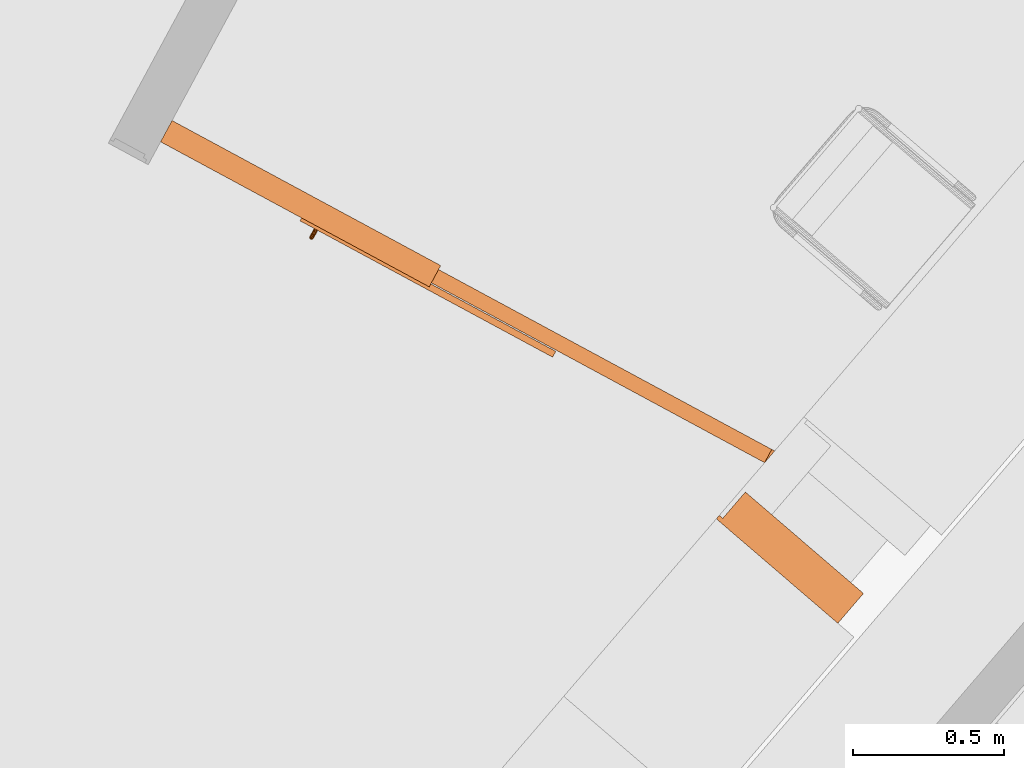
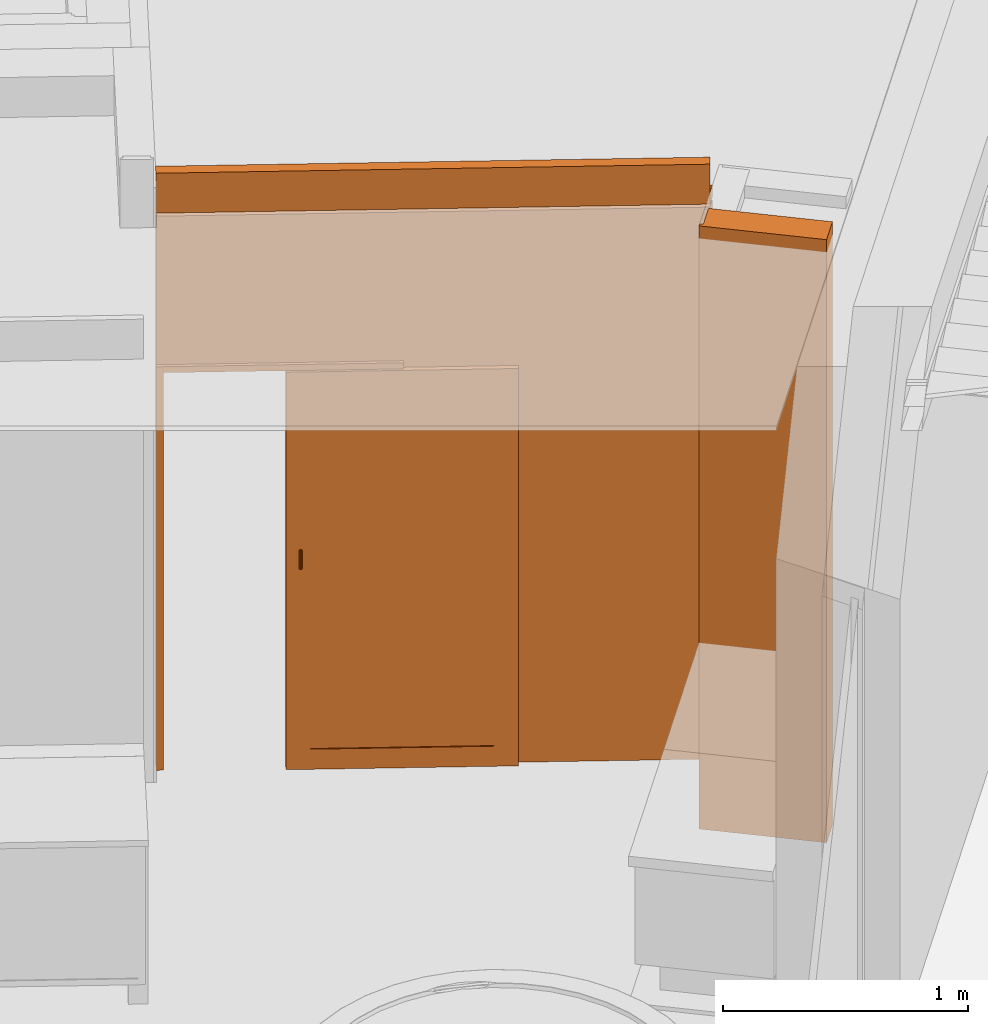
# One storey, part 46 of 48: 3 proxies, 1 opening.
"""IFC2X3 building model written with IfcOpenShell, lengths in metres."""

from ifc_helpers import new_model, entity, si_unit, converted_unit, derived_unit, money_unit, direction, frame, origin_with_axes, place, context, subcontext, project, spatial, open_shell, faceted_brep, surface_model, material, material_list, type_object, element, fill, save


model = new_model("IFC2X3")

# Units and contexts
model_context = context("Model", 3, precision=1e-05, world=origin_with_axes(), true_north=direction((0.0, 1.0)))
body_context = subcontext(model_context, "Body", "Model", "MODEL_VIEW")
ifc_project = project(units=[si_unit("LENGTHUNIT", "METRE"), si_unit("AREAUNIT", "SQUARE_METRE"), si_unit("VOLUMEUNIT", "CUBIC_METRE"), converted_unit("PLANEANGLEUNIT", "DEGREE", entity("IfcPlaneAngleMeasure", 0.0174532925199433), si_unit("PLANEANGLEUNIT", "RADIAN"), dimensions=[0, 0, 0, 0, 0, 0, 0]), money_unit("EUR"), converted_unit("TIMEUNIT", "Year", entity("IfcTimeMeasure", 31556926.0), si_unit("TIMEUNIT", "SECOND"), dimensions=[0, 0, 1, 0, 0, 0, 0]), si_unit("MASSUNIT", "GRAM", prefix="KILO"), si_unit("THERMODYNAMICTEMPERATUREUNIT", "DEGREE_CELSIUS"), si_unit("LUMINOUSINTENSITYUNIT", "LUMEN"), si_unit("ENERGYUNIT", "JOULE", prefix="MEGA"), derived_unit("THERMALCONDUCTANCEUNIT", [(si_unit("POWERUNIT", "WATT"), 1), (si_unit("LENGTHUNIT", "METRE"), -1), (si_unit("THERMODYNAMICTEMPERATUREUNIT", "KELVIN"), -1)]), derived_unit("SPECIFICHEATCAPACITYUNIT", [(si_unit("ENERGYUNIT", "JOULE"), 1), (si_unit("MASSUNIT", "GRAM", prefix="KILO"), -1), (si_unit("THERMODYNAMICTEMPERATUREUNIT", "KELVIN"), -1)]), derived_unit("MASSDENSITYUNIT", [(si_unit("MASSUNIT", "GRAM", prefix="KILO"), 1), (si_unit("VOLUMEUNIT", "CUBIC_METRE"), -1)])], contexts=[model_context])

# Site, building, storey
site_placement = place(None, frame((-3.949935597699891, 1.740105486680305, 0.0), z_axis=(0.0, 0.0, 1.0), x_axis=(0.8799804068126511, -0.475009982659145, 0.0)))
site = spatial("IfcSite", under=ifc_project, at=site_placement, Name="Gelände", CompositionType="ELEMENT")
building_placement = place(site_placement, origin_with_axes())
building = spatial("IfcBuilding", under=site, at=building_placement, Name="Gebäude", CompositionType="ELEMENT")
storey_placement = place(building_placement, frame((0.0, 0.0, 4.55), z_axis=(0.0, 0.0, 1.0), x_axis=(1.0, 0.0, 0.0)))
storey = spatial("IfcBuildingStorey", under=building, at=storey_placement, Name="Staffelgeschoss", CompositionType="ELEMENT", Elevation=4.55)

# Proxy
ifc_material_1 = material(Name="Verputz, Gips")
ifc_material_2 = material(Name="MW Kalksandstein")
ifc_material_list = material_list([ifc_material_1, ifc_material_2])
building_element_proxy_type_1 = type_object("IfcBuildingElementProxyType", Name="WI | KS 11,5+1-seitig Putz 1,5 | 13cm 130", PredefinedType="NOTDEFINED")
proxy_1_placement = place(storey_placement, frame((26.47090517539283, 5.30073583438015, -0.1799999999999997), z_axis=(0.0, 0.0, 1.0), x_axis=(-0.9769696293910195, 0.2133784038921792, 0.0)))
element("IfcBuildingElementProxy", 1, at=proxy_1_placement, inside=storey, type_object=building_element_proxy_type_1, material=ifc_material_list, Name="I-Wand010", context=body_context, shape_type="Brep", body=[
    faceted_brep([(0.5299999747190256, 0.0, 3.005000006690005), (0.0, 0.0, 3.005000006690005), (0.0, -0.01500000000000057, 3.005000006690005), (0.5299999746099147, -0.01500000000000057, 3.005000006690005), (0.5299999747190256, 0.0, 0.0), (0.0, 0.0, 0.0), (0.0, -0.01500000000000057, 0.0), (0.5299999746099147, -0.01500000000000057, 0.0)], [[[0, 1, 2, 3]], [[4, 5, 1, 0]], [[2, 1, 5, 6]], [[3, 2, 6, 7]], [[3, 7, 4, 0]], [[7, 6, 5, 4]]]),
    faceted_brep([(0.5149999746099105, -0.01500000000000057, 3.005000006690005), (0.0, -0.01500000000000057, 3.005000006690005), (0.0, -0.1300000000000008, 3.005000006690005), (0.5149999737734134, -0.129999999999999, 3.005000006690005), (0.5149999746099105, -0.01500000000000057, 0.0), (0.0, -0.01500000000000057, 0.0), (0.0, -0.1300000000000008, 0.0), (0.5149999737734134, -0.1300000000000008, 0.0)], [[[0, 1, 2, 3]], [[4, 5, 1, 0]], [[2, 1, 5, 6]], [[3, 2, 6, 7]], [[3, 7, 4, 0]], [[7, 6, 5, 4]]]),
])

# Proxies, opening
ifc_material_3 = material(Name="ALLGEMEIN - BAUTEIL")
building_element_proxy_type_2 = type_object("IfcBuildingElementProxyType", Name="ALLGEMEIN - BAUTEIL 50", PredefinedType="NOTDEFINED")
proxy_2_placement = place(storey_placement, frame((26.00538265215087, 5.653154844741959, -0.2999999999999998), z_axis=(0.0, 0.0, 1.0), x_axis=(-0.9999999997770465, -2.111651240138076e-05, 0.0)))
proxy_2 = element("IfcBuildingElementProxy", 2, at=proxy_2_placement, inside=storey, type_object=building_element_proxy_type_2, material=ifc_material_3, Name="I-Wand039", context=body_context, shape_type="Brep", body=[
    faceted_brep([(1.252847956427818, -0.04999999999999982, 2.31), (2.262847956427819, -0.05000000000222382, 2.31), (2.262848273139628, -0.05000000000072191, 3.05), (-0.01092152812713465, -0.04999999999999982, 3.05), (-0.01092152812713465, -0.04999999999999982, 0.2999999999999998), (1.252847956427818, -0.0500000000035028, 0.2999999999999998), (1.252847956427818, 0.0, 2.31), (2.262847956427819, 0.0, 2.31), (2.262849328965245, 0.0, 3.05), (0.0, 0.0, 3.05), (0.0, 0.0, 0.2999999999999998), (1.252847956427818, 0.0, 0.2999999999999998)], [[[0, 1, 2, 3, 4, 5]], [[1, 0, 6, 7]], [[1, 7, 8, 2]], [[9, 3, 2, 8]], [[10, 4, 3, 9]], [[11, 5, 4, 10]], [[0, 5, 11, 6]], [[6, 11, 10, 9, 8, 7]]]),
    faceted_brep([(2.262848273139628, -0.05000000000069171, 3.065), (2.262848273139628, -0.05000000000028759, 3.263999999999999), (0.0, -0.04999999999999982, 3.263999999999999), (0.0, -0.04999999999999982, 3.125000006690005), (-0.01092152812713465, -0.04999999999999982, 3.125000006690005), (-0.01092152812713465, -0.04999999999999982, 3.065), (2.262849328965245, 0.0, 3.065), (2.262849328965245, 0.0, 3.263999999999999), (0.0, 0.0, 3.263999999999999), (0.0, 0.0, 3.125000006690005), (0.0, 0.0, 3.065)], [[[0, 1, 2, 3, 4, 5]], [[6, 7, 1, 0]], [[7, 8, 2, 1]], [[3, 2, 8, 9]], [[3, 9, 4]], [[9, 10, 5, 4]], [[6, 0, 5, 10]], [[9, 8, 7, 6, 10]]]),
])
opening_placement = place(proxy_2_placement, frame((1.757847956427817, 0.0, 0.2999999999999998), z_axis=(0.0, 0.0, 1.0), x_axis=(1.0, 0.0, 0.0)))
opening = element("IfcOpeningElement", 3, at=opening_placement, cuts=proxy_2, Name="Tür-017", context=body_context, shape_type="Brep", body=[
    faceted_brep([(-0.504999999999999, 0.001047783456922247, 1.98), (-0.504999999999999, 0.0, 1.98), (-0.504999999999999, 0.0, 0.0), (-0.5049999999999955, -0.05104778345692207, 0.0), (-0.5049999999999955, -0.05104778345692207, 2.01), (-0.504999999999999, 0.001047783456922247, 2.01), (-0.5049999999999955, 0.03000000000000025, 1.98), (-1.514999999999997, 0.03000000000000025, 1.98), (-1.514999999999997, 0.0, 1.98), (-1.514999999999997, 0.0, 0.0), (-0.504999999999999, 0.001047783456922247, 0.0), (0.5050000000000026, 0.001047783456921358, 0.0), (0.5050000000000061, -0.05104778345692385, 0.0), (0.5050000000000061, -0.05104778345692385, 2.01), (0.5050000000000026, 0.001047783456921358, 2.01), (-0.5049999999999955, 0.03000000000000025, 0.0), (-1.514999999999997, 0.03000000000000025, 0.0)], [[[0, 1, 2, 3, 4, 5]], [[1, 0, 6, 7, 8]], [[2, 1, 8, 9]], [[2, 10, 11, 12, 3]], [[3, 12, 13, 4]], [[4, 13, 14, 5]], [[10, 0, 5, 14, 11]], [[0, 10, 15, 6]], [[7, 6, 15, 16]], [[8, 7, 16, 9]], [[10, 2, 9, 16, 15]], [[13, 12, 11, 14]]]),
])
building_element_proxy_type_3 = type_object("IfcBuildingElementProxyType", Name="Schiebetür 02 1 22", PredefinedType="NOTDEFINED")
proxy_3_placement = place(opening_placement, frame((0.5050000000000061, 0.0, 0.0), z_axis=(0.0, 0.0, 1.0), x_axis=(-1.0, 0.0, 0.0)))
proxy_3 = element("IfcBuildingElementProxy", 4, at=proxy_3_placement, inside=storey, type_object=building_element_proxy_type_3, Name="Tür-017", context=body_context, shape_type="SurfaceModel", body=[
    faceted_brep([(1.010000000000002, 0.0649999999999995, 0.0), (1.010000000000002, 0.04999999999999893, 0.0), (0.980000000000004, 0.04999999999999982, 0.0), (0.9800000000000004, 0.0649999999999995, 0.0), (1.010000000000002, 0.0649999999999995, 2.01), (1.010000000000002, 0.04999999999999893, 2.01), (0.0, 0.05000000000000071, 2.01), (0.0, 0.05000000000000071, 0.0), (0.03000000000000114, 0.05000000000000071, 0.0), (0.03000000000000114, 0.05000000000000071, 1.98), (0.980000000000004, 0.04999999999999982, 1.98), (0.9800000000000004, 0.0649999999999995, 1.98), (0.03000000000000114, 0.0649999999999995, 1.98), (0.03000000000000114, 0.0649999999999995, 0.0), (0.0, 0.06500000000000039, 0.0), (0.0, 0.06500000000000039, 2.01)], [[[0, 1, 2, 3]], [[4, 5, 1, 0]], [[1, 5, 6, 7, 8, 9, 10, 2]], [[3, 2, 10, 11]], [[0, 3, 11, 12, 13, 14, 15, 4]], [[15, 6, 5, 4]], [[14, 7, 6, 15]], [[13, 8, 7, 14]], [[12, 9, 8, 13]], [[11, 10, 9, 12]]]),
    faceted_brep([(1.010000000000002, 0.04999999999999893, 0.0), (1.010000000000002, 0.0, 0.0), (0.9799999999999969, 0.0, 0.0), (0.980000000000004, 0.04999999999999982, 0.0), (1.010000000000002, 0.04999999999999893, 2.01), (1.010000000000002, 0.0, 2.01), (0.0, 0.0, 2.01), (0.0, 0.0, 0.0), (0.03000000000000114, 0.0, 0.0), (0.03000000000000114, 0.0, 1.98), (0.9799999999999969, 0.0, 1.98), (0.980000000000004, 0.04999999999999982, 1.98), (0.03000000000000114, 0.05000000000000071, 1.98), (0.03000000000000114, 0.05000000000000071, 0.0), (0.0, 0.05000000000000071, 0.0), (0.0, 0.05000000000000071, 2.01)], [[[0, 1, 2, 3]], [[4, 5, 1, 0]], [[1, 5, 6, 7, 8, 9, 10, 2]], [[3, 2, 10, 11]], [[0, 3, 11, 12, 13, 14, 15, 4]], [[15, 6, 5, 4]], [[14, 7, 6, 15]], [[13, 8, 7, 14]], [[12, 9, 8, 13]], [[11, 10, 9, 12]]]),
    faceted_brep([(1.010000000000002, 0.0, 0.0), (1.010000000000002, -0.01500000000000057, 0.0), (0.9800000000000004, -0.01500000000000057, 0.0), (0.9799999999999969, 0.0, 0.0), (1.010000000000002, 0.0, 2.01), (1.010000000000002, -0.01500000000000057, 2.01), (0.0, -0.01499999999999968, 2.01), (0.0, -0.01499999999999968, 0.0), (0.03000000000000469, -0.01499999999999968, 0.0), (0.03000000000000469, -0.01499999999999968, 1.98), (0.9800000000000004, -0.01500000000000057, 1.98), (0.9799999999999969, 0.0, 1.98), (0.03000000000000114, 0.0, 1.98), (0.03000000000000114, 0.0, 0.0), (0.0, 0.0, 0.0), (0.0, 0.0, 2.01)], [[[0, 1, 2, 3]], [[4, 5, 1, 0]], [[1, 5, 6, 7, 8, 9, 10, 2]], [[3, 2, 10, 11]], [[0, 3, 11, 12, 13, 14, 15, 4]], [[15, 6, 5, 4]], [[14, 7, 6, 15]], [[13, 8, 7, 14]], [[12, 9, 8, 13]], [[11, 10, 9, 12]]]),
    faceted_brep([(1.479949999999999, -0.004000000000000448, 0.09999999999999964), (1.479950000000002, -0.0259999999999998, 0.09999999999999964), (1.379950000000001, -0.02600000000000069, 0.09999999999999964), (1.379949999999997, -0.004000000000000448, 0.09999999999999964), (1.479949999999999, -0.004000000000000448, 1.8799), (1.479950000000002, -0.0259999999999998, 1.8799), (1.379950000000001, -0.02600000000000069, 1.8799), (1.379949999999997, -0.004000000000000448, 1.8799)], [[[0, 1, 2, 3]], [[4, 5, 1, 0]], [[1, 5, 6, 2]], [[3, 2, 6, 7]], [[0, 3, 7, 4]], [[7, 6, 5, 4]]]),
    faceted_brep([(0.5300499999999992, -0.004000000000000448, 1.8799), (0.5300499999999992, -0.0259999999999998, 1.8799), (0.6300500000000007, -0.02600000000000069, 1.8799), (0.6300500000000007, -0.003999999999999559, 1.8799), (0.5300499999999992, -0.004000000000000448, 0.09999999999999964), (0.5300499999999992, -0.0259999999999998, 0.09999999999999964), (0.6300500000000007, -0.02600000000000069, 0.09999999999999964), (0.6300500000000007, -0.003999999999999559, 0.09999999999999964)], [[[0, 1, 2, 3]], [[4, 5, 1, 0]], [[1, 5, 6, 2]], [[3, 2, 6, 7]], [[0, 3, 7, 4]], [[7, 6, 5, 4]]]),
    faceted_brep([(0.5300499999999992, -0.004000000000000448, 0.0), (0.5300499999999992, -0.0259999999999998, 0.0), (0.5300499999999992, -0.0259999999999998, 0.09999999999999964), (0.5300499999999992, -0.004000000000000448, 0.09999999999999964), (1.479949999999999, -0.004000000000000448, 0.0), (1.479950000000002, -0.0259999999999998, 0.0), (1.479950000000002, -0.0259999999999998, 0.09999999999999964), (1.379950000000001, -0.02600000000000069, 0.09999999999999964), (0.6300500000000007, -0.02600000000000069, 0.09999999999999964), (0.6300500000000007, -0.003999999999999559, 0.09999999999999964), (1.379949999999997, -0.004000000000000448, 0.09999999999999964), (1.479949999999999, -0.004000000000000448, 0.09999999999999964)], [[[0, 1, 2, 3]], [[4, 5, 1, 0]], [[1, 5, 6, 7, 8, 2]], [[3, 2, 8, 9]], [[0, 3, 9, 10, 11, 4]], [[11, 6, 5, 4]], [[10, 7, 6, 11]], [[9, 8, 7, 10]]]),
    faceted_brep([(1.479949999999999, -0.004000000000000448, 1.9799), (1.479950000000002, -0.0259999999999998, 1.9799), (1.479950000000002, -0.0259999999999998, 1.8799), (1.479949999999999, -0.004000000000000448, 1.8799), (0.5300499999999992, -0.004000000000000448, 1.9799), (0.5300499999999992, -0.0259999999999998, 1.9799), (0.5300499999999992, -0.0259999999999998, 1.8799), (0.6300500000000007, -0.02600000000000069, 1.8799), (1.379950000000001, -0.02600000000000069, 1.8799), (1.379949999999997, -0.004000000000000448, 1.8799), (0.6300500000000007, -0.003999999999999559, 1.8799), (0.5300499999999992, -0.004000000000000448, 1.8799)], [[[0, 1, 2, 3]], [[4, 5, 1, 0]], [[1, 5, 6, 7, 8, 2]], [[3, 2, 8, 9]], [[0, 3, 9, 10, 11, 4]], [[11, 6, 5, 4]], [[10, 7, 6, 11]], [[9, 8, 7, 10]]]),
    surface_model("IfcShellBasedSurfaceModel", [(1.379950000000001, -0.009000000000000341, 0.09999999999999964), (0.6300500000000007, -0.008999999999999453, 0.09999999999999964), (0.6300500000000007, -0.008999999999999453, 1.8799), (1.379950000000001, -0.009000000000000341, 1.8799)], [open_shell([[[0, 1, 2, 3]]])]),
    surface_model("IfcShellBasedSurfaceModel", [(1.379950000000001, -0.0210000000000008, 0.09999999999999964), (1.379950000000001, -0.0210000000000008, 1.8799), (0.6300500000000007, -0.0210000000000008, 1.8799), (0.6300500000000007, -0.0210000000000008, 0.09999999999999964)], [open_shell([[[0, 1, 2, 3]]])]),
    faceted_brep([(0.5970499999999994, -0.04099999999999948, 1.085980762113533), (0.597050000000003, -0.02600000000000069, 1.09), (0.5961121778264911, -0.02600000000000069, 1.0935), (0.5961121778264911, -0.04274999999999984, 1.089011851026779), (0.5961121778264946, -0.03925000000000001, 1.082949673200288), (0.5961121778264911, -0.02600000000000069, 1.0865), (0.5935499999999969, -0.02600000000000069, 1.083937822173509), (0.590049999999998, -0.0259999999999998, 1.083), (0.5865500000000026, -0.02600000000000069, 1.083937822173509), (0.5839878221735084, -0.02600000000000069, 1.0865), (0.5830500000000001, -0.0259999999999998, 1.09), (0.5839878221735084, -0.02600000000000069, 1.0935), (0.5865500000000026, -0.02600000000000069, 1.096062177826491), (0.590049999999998, -0.0259999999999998, 1.097), (0.5935499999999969, -0.02600000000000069, 1.096062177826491), (0.5935500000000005, -0.04403108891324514, 1.091230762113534), (0.597050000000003, -0.05198076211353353, 1.075), (0.5961121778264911, -0.0550118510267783, 1.07675), (0.5935500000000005, -0.03796891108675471, 1.080730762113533), (0.5961121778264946, -0.04894967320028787, 1.07325), (0.5900500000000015, -0.03750000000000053, 1.079918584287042), (0.5865500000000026, -0.03796891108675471, 1.080730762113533), (0.583987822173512, -0.03925000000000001, 1.082949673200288), (0.5830500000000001, -0.04100000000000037, 1.085980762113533), (0.5839878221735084, -0.04275000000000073, 1.089011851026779), (0.5865500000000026, -0.04403108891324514, 1.091230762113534), (0.590049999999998, -0.04450000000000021, 1.092042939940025), (0.5935500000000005, -0.05723076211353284, 1.078031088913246), (0.597050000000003, -0.05600000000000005, 1.06), (0.5961121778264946, -0.05949999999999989, 1.06), (0.5935500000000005, -0.04673076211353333, 1.071968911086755), (0.5961121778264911, -0.05249999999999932, 1.06), (0.5900500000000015, -0.04591858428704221, 1.0715), (0.586549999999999, -0.04673076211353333, 1.071968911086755), (0.5839878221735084, -0.04894967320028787, 1.07325), (0.5830499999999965, -0.05198076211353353, 1.075), (0.5839878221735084, -0.05501185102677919, 1.07675), (0.5865500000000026, -0.05723076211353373, 1.078031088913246), (0.590049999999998, -0.05804293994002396, 1.0785), (0.5935500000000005, -0.06206217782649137, 1.06), (0.590049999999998, -0.06300000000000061, 1.06), (0.5865500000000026, -0.06206217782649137, 1.06), (0.5839878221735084, -0.05949999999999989, 1.06), (0.5830500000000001, -0.05600000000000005, 1.06), (0.5839878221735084, -0.05250000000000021, 1.06), (0.5865500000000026, -0.04993782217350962, 1.06), (0.5900500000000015, -0.04899999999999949, 1.06), (0.5935499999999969, -0.04993782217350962, 1.06)], [[[0, 1, 2, 3]], [[4, 5, 1, 0]], [[1, 5, 6, 7, 8, 9, 10, 11, 12, 13, 14, 2]], [[3, 2, 14, 15]], [[16, 0, 3, 17]], [[18, 6, 5, 4]], [[19, 4, 0, 16]], [[20, 7, 6, 18]], [[21, 8, 7, 20]], [[22, 9, 8, 21]], [[23, 10, 9, 22]], [[24, 11, 10, 23]], [[25, 12, 11, 24]], [[26, 13, 12, 25]], [[15, 14, 13, 26]], [[17, 3, 15, 27]], [[28, 16, 17, 29]], [[30, 18, 4, 19]], [[31, 19, 16, 28]], [[32, 20, 18, 30]], [[33, 21, 20, 32]], [[34, 22, 21, 33]], [[35, 23, 22, 34]], [[36, 24, 23, 35]], [[37, 25, 24, 36]], [[38, 26, 25, 37]], [[27, 15, 26, 38]], [[29, 17, 27, 39]], [[28, 29, 39, 40, 41, 42, 43, 44, 45, 46, 47, 31]], [[47, 30, 19, 31]], [[46, 32, 30, 47]], [[45, 33, 32, 46]], [[44, 34, 33, 45]], [[43, 35, 34, 44]], [[42, 36, 35, 43]], [[41, 37, 36, 42]], [[40, 38, 37, 41]], [[39, 27, 38, 40]]]),
    faceted_brep([(0.5830500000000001, -0.04100000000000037, 1.014019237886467), (0.5830500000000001, -0.0259999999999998, 1.01), (0.5839878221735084, -0.02600000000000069, 1.0065), (0.5839878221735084, -0.04275000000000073, 1.010988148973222), (0.583987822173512, -0.03925000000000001, 1.017050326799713), (0.5839878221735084, -0.02600000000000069, 1.0135), (0.5865500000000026, -0.02600000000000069, 1.016062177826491), (0.590049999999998, -0.0259999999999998, 1.017), (0.5935499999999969, -0.02600000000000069, 1.016062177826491), (0.5961121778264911, -0.02600000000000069, 1.0135), (0.597050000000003, -0.02600000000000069, 1.01), (0.5961121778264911, -0.02600000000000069, 1.0065), (0.5935499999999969, -0.02600000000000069, 1.003937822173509), (0.590049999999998, -0.0259999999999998, 1.003), (0.5865500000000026, -0.02600000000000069, 1.003937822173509), (0.5865500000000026, -0.04403108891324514, 1.008769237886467), (0.5830499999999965, -0.05198076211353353, 1.025), (0.5839878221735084, -0.05501185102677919, 1.02325), (0.5865500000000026, -0.03796891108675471, 1.019269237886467), (0.5839878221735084, -0.04894967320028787, 1.02675), (0.5900500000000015, -0.03750000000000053, 1.020081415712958), (0.5935500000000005, -0.03796891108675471, 1.019269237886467), (0.5961121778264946, -0.03925000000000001, 1.017050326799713), (0.5970499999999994, -0.04099999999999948, 1.014019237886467), (0.5961121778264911, -0.04274999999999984, 1.010988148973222), (0.5935500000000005, -0.04403108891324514, 1.008769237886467), (0.590049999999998, -0.04450000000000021, 1.007957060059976), (0.5865500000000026, -0.05723076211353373, 1.021968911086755), (0.5830500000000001, -0.05600000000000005, 1.04), (0.5839878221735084, -0.05949999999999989, 1.04), (0.586549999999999, -0.04673076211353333, 1.028031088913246), (0.5839878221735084, -0.05250000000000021, 1.04), (0.5900500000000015, -0.04591858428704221, 1.0285), (0.5935500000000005, -0.04673076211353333, 1.028031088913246), (0.5961121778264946, -0.04894967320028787, 1.02675), (0.597050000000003, -0.05198076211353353, 1.025), (0.5961121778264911, -0.0550118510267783, 1.02325), (0.5935500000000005, -0.05723076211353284, 1.021968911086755), (0.590049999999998, -0.05804293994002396, 1.021500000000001), (0.5865500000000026, -0.06206217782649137, 1.04), (0.590049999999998, -0.06300000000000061, 1.04), (0.5935500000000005, -0.06206217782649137, 1.04), (0.5961121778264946, -0.05949999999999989, 1.04), (0.597050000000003, -0.05600000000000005, 1.04), (0.5961121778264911, -0.05249999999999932, 1.04), (0.5935499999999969, -0.04993782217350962, 1.04), (0.5900500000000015, -0.04899999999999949, 1.04), (0.5865500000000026, -0.04993782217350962, 1.04)], [[[0, 1, 2, 3]], [[4, 5, 1, 0]], [[1, 5, 6, 7, 8, 9, 10, 11, 12, 13, 14, 2]], [[3, 2, 14, 15]], [[16, 0, 3, 17]], [[18, 6, 5, 4]], [[19, 4, 0, 16]], [[20, 7, 6, 18]], [[21, 8, 7, 20]], [[22, 9, 8, 21]], [[23, 10, 9, 22]], [[24, 11, 10, 23]], [[25, 12, 11, 24]], [[26, 13, 12, 25]], [[15, 14, 13, 26]], [[17, 3, 15, 27]], [[28, 16, 17, 29]], [[30, 18, 4, 19]], [[31, 19, 16, 28]], [[32, 20, 18, 30]], [[33, 21, 20, 32]], [[34, 22, 21, 33]], [[35, 23, 22, 34]], [[36, 24, 23, 35]], [[37, 25, 24, 36]], [[38, 26, 25, 37]], [[27, 15, 26, 38]], [[29, 17, 27, 39]], [[28, 29, 39, 40, 41, 42, 43, 44, 45, 46, 47, 31]], [[47, 30, 19, 31]], [[46, 32, 30, 47]], [[45, 33, 32, 46]], [[44, 34, 33, 45]], [[43, 35, 34, 44]], [[42, 36, 35, 43]], [[41, 37, 36, 42]], [[40, 38, 37, 41]], [[39, 27, 38, 40]]]),
    faceted_brep([(0.597050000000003, -0.05600000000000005, 1.04), (0.5961121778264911, -0.05249999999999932, 1.04), (0.5961121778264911, -0.05249999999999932, 1.06), (0.597050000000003, -0.05600000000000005, 1.06), (0.5961121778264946, -0.05949999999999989, 1.04), (0.5935500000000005, -0.06206217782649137, 1.04), (0.590049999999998, -0.06300000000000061, 1.04), (0.5865500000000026, -0.06206217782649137, 1.04), (0.5839878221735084, -0.05949999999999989, 1.04), (0.5830500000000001, -0.05600000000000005, 1.04), (0.5839878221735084, -0.05250000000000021, 1.04), (0.5865500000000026, -0.04993782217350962, 1.04), (0.5900500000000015, -0.04899999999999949, 1.04), (0.5935499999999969, -0.04993782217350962, 1.04), (0.5935499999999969, -0.04993782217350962, 1.06), (0.5900500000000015, -0.04899999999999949, 1.06), (0.5865500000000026, -0.04993782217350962, 1.06), (0.5839878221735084, -0.05250000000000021, 1.06), (0.5830500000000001, -0.05600000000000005, 1.06), (0.5839878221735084, -0.05949999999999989, 1.06), (0.5865500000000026, -0.06206217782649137, 1.06), (0.590049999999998, -0.06300000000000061, 1.06), (0.5935500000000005, -0.06206217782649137, 1.06), (0.5961121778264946, -0.05949999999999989, 1.06)], [[[0, 1, 2, 3]], [[0, 4, 5, 6, 7, 8, 9, 10, 11, 12, 13, 1]], [[1, 13, 14, 2]], [[3, 2, 14, 15, 16, 17, 18, 19, 20, 21, 22, 23]], [[4, 0, 3, 23]], [[5, 4, 23, 22]], [[6, 5, 22, 21]], [[7, 6, 21, 20]], [[8, 7, 20, 19]], [[9, 8, 19, 18]], [[10, 9, 18, 17]], [[11, 10, 17, 16]], [[12, 11, 16, 15]], [[13, 12, 15, 14]]]),
    faceted_brep([(0.597050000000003, 0.01100000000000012, 1.085980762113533), (0.5961121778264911, 0.01274999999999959, 1.089011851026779), (0.5961121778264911, -0.003999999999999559, 1.0935), (0.5970499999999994, -0.004000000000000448, 1.09), (0.5970499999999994, 0.02198076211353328, 1.075), (0.5961121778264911, 0.02501185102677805, 1.07675), (0.5935499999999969, 0.01403108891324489, 1.091230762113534), (0.5935500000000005, -0.004000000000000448, 1.096062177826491), (0.5900500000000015, -0.003999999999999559, 1.097), (0.586549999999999, -0.004000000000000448, 1.096062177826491), (0.583987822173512, -0.004000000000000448, 1.0935), (0.5830500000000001, -0.004000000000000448, 1.09), (0.583987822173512, -0.004000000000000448, 1.0865), (0.586549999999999, -0.004000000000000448, 1.083937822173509), (0.5900500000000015, -0.003999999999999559, 1.083), (0.5935500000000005, -0.004000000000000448, 1.083937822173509), (0.5961121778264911, -0.003999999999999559, 1.0865), (0.5961121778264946, 0.009249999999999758, 1.082949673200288), (0.5970499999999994, 0.0259999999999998, 1.06), (0.5961121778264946, 0.02949999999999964, 1.06), (0.593550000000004, 0.02723076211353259, 1.078031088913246), (0.5961121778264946, 0.01894967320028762, 1.07325), (0.5900500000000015, 0.01449999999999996, 1.092042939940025), (0.5865500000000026, 0.01403108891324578, 1.091230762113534), (0.5839878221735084, 0.01274999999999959, 1.089011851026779), (0.5830500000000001, 0.01100000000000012, 1.085980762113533), (0.583987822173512, 0.009250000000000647, 1.082949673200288), (0.5865500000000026, 0.007968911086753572, 1.080730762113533), (0.5900500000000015, 0.007499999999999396, 1.079918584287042), (0.5935500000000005, 0.007968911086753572, 1.080730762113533), (0.5961121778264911, 0.02249999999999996, 1.06), (0.5935499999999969, 0.01993782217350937, 1.06), (0.5900500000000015, 0.01900000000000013, 1.06), (0.5865500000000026, 0.01993782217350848, 1.06), (0.5839878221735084, 0.02249999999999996, 1.06), (0.5830500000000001, 0.02599999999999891, 1.06), (0.583987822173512, 0.02950000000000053, 1.06), (0.5865500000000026, 0.03206217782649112, 1.06), (0.590049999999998, 0.03299999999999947, 1.06), (0.593550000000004, 0.03206217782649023, 1.06), (0.590049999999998, 0.02804293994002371, 1.0785), (0.5935499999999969, 0.01673076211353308, 1.071968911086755), (0.5865500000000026, 0.02723076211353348, 1.078031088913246), (0.583987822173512, 0.02501185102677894, 1.07675), (0.5830500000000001, 0.02198076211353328, 1.075), (0.583987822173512, 0.01894967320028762, 1.07325), (0.5865500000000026, 0.01673076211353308, 1.071968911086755), (0.5900500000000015, 0.01591858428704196, 1.0715)], [[[0, 1, 2, 3]], [[4, 5, 1, 0]], [[1, 6, 7, 2]], [[3, 2, 7, 8, 9, 10, 11, 12, 13, 14, 15, 16]], [[17, 0, 3, 16]], [[18, 19, 5, 4]], [[5, 20, 6, 1]], [[21, 4, 0, 17]], [[6, 22, 8, 7]], [[22, 23, 9, 8]], [[23, 24, 10, 9]], [[24, 25, 11, 10]], [[25, 26, 12, 11]], [[26, 27, 13, 12]], [[27, 28, 14, 13]], [[28, 29, 15, 14]], [[29, 17, 16, 15]], [[18, 30, 31, 32, 33, 34, 35, 36, 37, 38, 39, 19]], [[19, 39, 20, 5]], [[30, 18, 4, 21]], [[20, 40, 22, 6]], [[41, 21, 17, 29]], [[40, 42, 23, 22]], [[42, 43, 24, 23]], [[43, 44, 25, 24]], [[44, 45, 26, 25]], [[45, 46, 27, 26]], [[46, 47, 28, 27]], [[47, 41, 29, 28]], [[31, 30, 21, 41]], [[32, 31, 41, 47]], [[33, 32, 47, 46]], [[34, 33, 46, 45]], [[35, 34, 45, 44]], [[36, 35, 44, 43]], [[37, 36, 43, 42]], [[38, 37, 42, 40]], [[39, 38, 40, 20]]]),
    faceted_brep([(0.5830500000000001, 0.01100000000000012, 1.014019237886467), (0.5839878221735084, 0.01274999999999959, 1.010988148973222), (0.583987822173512, -0.004000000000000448, 1.0065), (0.5830500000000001, -0.004000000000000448, 1.01), (0.5830500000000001, 0.02198076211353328, 1.025), (0.583987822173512, 0.02501185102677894, 1.02325), (0.5865500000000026, 0.01403108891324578, 1.008769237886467), (0.586549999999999, -0.004000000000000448, 1.003937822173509), (0.5900500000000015, -0.003999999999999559, 1.003), (0.5935500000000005, -0.004000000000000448, 1.003937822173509), (0.5961121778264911, -0.003999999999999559, 1.0065), (0.5970499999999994, -0.004000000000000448, 1.01), (0.5961121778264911, -0.003999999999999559, 1.0135), (0.5935500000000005, -0.004000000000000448, 1.016062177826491), (0.5900500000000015, -0.003999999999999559, 1.017), (0.586549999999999, -0.004000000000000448, 1.016062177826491), (0.583987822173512, -0.004000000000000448, 1.0135), (0.583987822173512, 0.009250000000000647, 1.017050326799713), (0.5830500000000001, 0.02599999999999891, 1.04), (0.583987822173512, 0.02950000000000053, 1.04), (0.5865500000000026, 0.02723076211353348, 1.021968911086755), (0.583987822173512, 0.01894967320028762, 1.02675), (0.5900500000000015, 0.01449999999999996, 1.007957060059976), (0.5935499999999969, 0.01403108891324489, 1.008769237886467), (0.5961121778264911, 0.01274999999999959, 1.010988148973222), (0.597050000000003, 0.01100000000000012, 1.014019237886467), (0.5961121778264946, 0.009249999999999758, 1.017050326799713), (0.5935500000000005, 0.00796891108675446, 1.019269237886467), (0.5900500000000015, 0.007499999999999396, 1.020081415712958), (0.5865500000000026, 0.007968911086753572, 1.019269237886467), (0.5839878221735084, 0.02249999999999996, 1.04), (0.5865500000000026, 0.01993782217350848, 1.04), (0.5900500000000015, 0.01900000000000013, 1.04), (0.5935499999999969, 0.01993782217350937, 1.04), (0.5961121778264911, 0.02249999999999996, 1.04), (0.5970499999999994, 0.0259999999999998, 1.04), (0.5961121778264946, 0.02949999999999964, 1.04), (0.593550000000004, 0.03206217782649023, 1.04), (0.590049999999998, 0.03299999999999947, 1.04), (0.5865500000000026, 0.03206217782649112, 1.04), (0.590049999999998, 0.02804293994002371, 1.021500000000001), (0.5865500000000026, 0.01673076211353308, 1.028031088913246), (0.593550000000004, 0.02723076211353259, 1.021968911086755), (0.5961121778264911, 0.02501185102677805, 1.02325), (0.5970499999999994, 0.02198076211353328, 1.025), (0.5961121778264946, 0.01894967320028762, 1.02675), (0.5935499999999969, 0.01673076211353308, 1.028031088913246), (0.5900500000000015, 0.01591858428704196, 1.0285)], [[[0, 1, 2, 3]], [[4, 5, 1, 0]], [[1, 6, 7, 2]], [[3, 2, 7, 8, 9, 10, 11, 12, 13, 14, 15, 16]], [[17, 0, 3, 16]], [[18, 19, 5, 4]], [[5, 20, 6, 1]], [[21, 4, 0, 17]], [[6, 22, 8, 7]], [[22, 23, 9, 8]], [[23, 24, 10, 9]], [[24, 25, 11, 10]], [[25, 26, 12, 11]], [[26, 27, 13, 12]], [[27, 28, 14, 13]], [[28, 29, 15, 14]], [[29, 17, 16, 15]], [[18, 30, 31, 32, 33, 34, 35, 36, 37, 38, 39, 19]], [[19, 39, 20, 5]], [[30, 18, 4, 21]], [[20, 40, 22, 6]], [[41, 21, 17, 29]], [[40, 42, 23, 22]], [[42, 43, 24, 23]], [[43, 44, 25, 24]], [[44, 45, 26, 25]], [[45, 46, 27, 26]], [[46, 47, 28, 27]], [[47, 41, 29, 28]], [[31, 30, 21, 41]], [[32, 31, 41, 47]], [[33, 32, 47, 46]], [[34, 33, 46, 45]], [[35, 34, 45, 44]], [[36, 35, 44, 43]], [[37, 36, 43, 42]], [[38, 37, 42, 40]], [[39, 38, 40, 20]]]),
    faceted_brep([(0.5970499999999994, 0.0259999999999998, 1.04), (0.5970499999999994, 0.0259999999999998, 1.06), (0.5961121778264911, 0.02249999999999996, 1.06), (0.5961121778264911, 0.02249999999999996, 1.04), (0.5961121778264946, 0.02949999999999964, 1.04), (0.5961121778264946, 0.02949999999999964, 1.06), (0.593550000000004, 0.03206217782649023, 1.06), (0.590049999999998, 0.03299999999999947, 1.06), (0.5865500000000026, 0.03206217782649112, 1.06), (0.583987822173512, 0.02950000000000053, 1.06), (0.5830500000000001, 0.02599999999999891, 1.06), (0.5839878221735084, 0.02249999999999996, 1.06), (0.5865500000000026, 0.01993782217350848, 1.06), (0.5900500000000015, 0.01900000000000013, 1.06), (0.5935499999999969, 0.01993782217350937, 1.06), (0.5935499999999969, 0.01993782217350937, 1.04), (0.5900500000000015, 0.01900000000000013, 1.04), (0.5865500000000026, 0.01993782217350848, 1.04), (0.5839878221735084, 0.02249999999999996, 1.04), (0.5830500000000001, 0.02599999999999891, 1.04), (0.583987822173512, 0.02950000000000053, 1.04), (0.5865500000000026, 0.03206217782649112, 1.04), (0.590049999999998, 0.03299999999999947, 1.04), (0.593550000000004, 0.03206217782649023, 1.04)], [[[0, 1, 2, 3]], [[4, 5, 1, 0]], [[1, 5, 6, 7, 8, 9, 10, 11, 12, 13, 14, 2]], [[3, 2, 14, 15]], [[0, 3, 15, 16, 17, 18, 19, 20, 21, 22, 23, 4]], [[23, 6, 5, 4]], [[22, 7, 6, 23]], [[21, 8, 7, 22]], [[20, 9, 8, 21]], [[19, 10, 9, 20]], [[18, 11, 10, 19]], [[17, 12, 11, 18]], [[16, 13, 12, 17]], [[15, 14, 13, 16]]]),
])
fill(opening, proxy_3)

save(model, "model.ifc")
